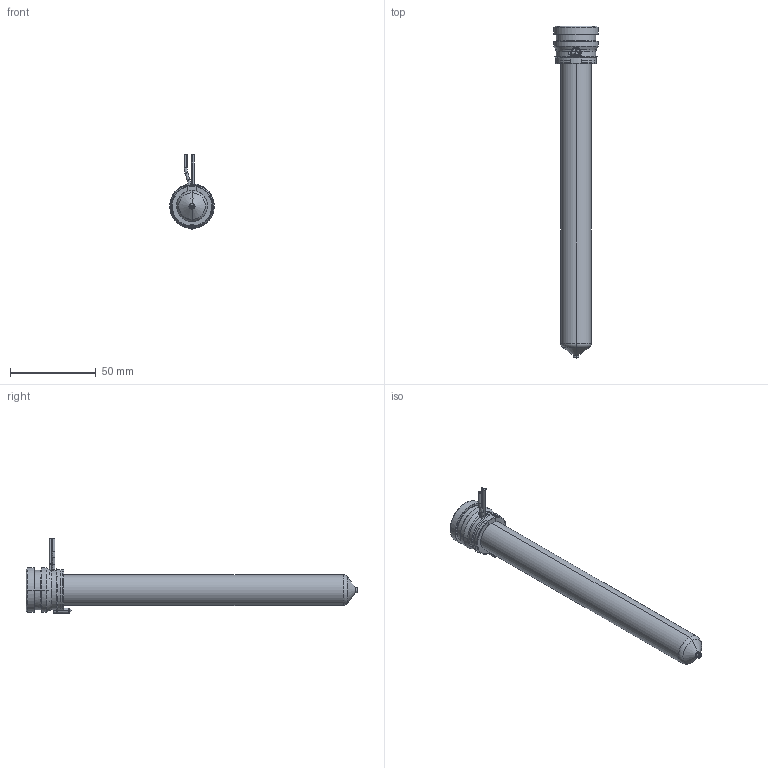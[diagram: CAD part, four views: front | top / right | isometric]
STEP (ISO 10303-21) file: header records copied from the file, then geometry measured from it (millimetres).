
FILE_DESCRIPTION((''),'2;1');
FILE_NAME('MPN-08-24-VP3-176-A','2026-02-05T12:02:27',('UPTIO'),('Thermoplay S.p.A.'),'CREO PARAMETRIC BY PTC INC, 2023494','CREO PARAMETRIC BY PTC INC, 2023494','');
FILE_SCHEMA(('CONFIG_CONTROL_DESIGN','SHAPE_APPEARANCE_LAYERS_GROUPS'));
Length unit declared in the file: millimetre
Products named in the file (1): MPN-08-24-VP3-176-A
Bounding box: 26 x 194.1 x 43.5 mm (x, y, z)
Volume: 36298.9 mm3; surface area: 47657.9 mm2
Topology: 2 solids, 3 shells, 587 faces, 1560 edges, 971 vertices
Faces by surface type: cylinder 184, plane 143, bspline 108, torus 70, cone 68, sphere 8, extrusion 6
Entity records: 31956 total; most frequent: CARTESIAN_POINT 14722, ORIENTED_EDGE 3104, DIRECTION 2714, EDGE_CURVE 1552, AXIS2_PLACEMENT_3D 1061, VERTEX_POINT 971, EDGE_LOOP 615, VECTOR 592
